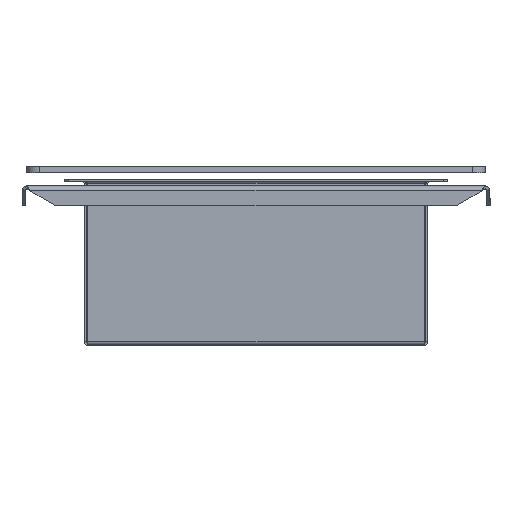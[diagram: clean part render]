
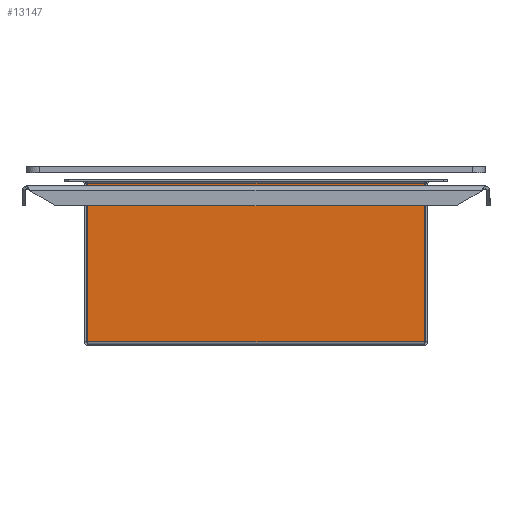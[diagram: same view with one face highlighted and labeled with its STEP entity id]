
A CAD part, left-side view. The second image highlights one B-rep face of the part: STEP entity #13147.
In plain terms, the highlighted planar face has unit normal (-1, 0, 0).
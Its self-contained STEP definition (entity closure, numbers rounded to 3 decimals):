
#379 = VECTOR ( 'NONE', #3079, 1000. ) ;
#552 = FACE_OUTER_BOUND ( 'NONE', #12557, .T. ) ;
#629 = CARTESIAN_POINT ( 'NONE',  ( -139.5, 80.7, 5. ) ) ;
#2609 = ORIENTED_EDGE ( 'NONE', *, *, #8262, .T. ) ;
#3079 = DIRECTION ( 'NONE',  ( 0., 1., 0. ) ) ;
#3097 = CARTESIAN_POINT ( 'NONE',  ( -139.5, -80.7, 5. ) ) ;
#3364 = CARTESIAN_POINT ( 'NONE',  ( -139.5, -80.7, -72.7 ) ) ;
#3468 = AXIS2_PLACEMENT_3D ( 'NONE', #14205, #6607, #15477 ) ;
#3882 = LINE ( 'NONE', #629, #7225 ) ;
#4024 = PLANE ( 'NONE',  #3468 ) ;
#4078 = VERTEX_POINT ( 'NONE', #3364 ) ;
#4169 = CARTESIAN_POINT ( 'NONE',  ( -139.5, 80.7, 3.2 ) ) ;
#5109 = VECTOR ( 'NONE', #11720, 1000. ) ;
#5160 = VERTEX_POINT ( 'NONE', #16376 ) ;
#6607 = DIRECTION ( 'NONE',  ( 1., 0., 0. ) ) ;
#6678 = LINE ( 'NONE', #4169, #5109 ) ;
#6716 = VERTEX_POINT ( 'NONE', #11132 ) ;
#7049 = EDGE_CURVE ( 'NONE', #4078, #5160, #7141, .T. ) ;
#7141 = LINE ( 'NONE', #11847, #379 ) ;
#7225 = VECTOR ( 'NONE', #8227, 1000. ) ;
#8227 = DIRECTION ( 'NONE',  ( 0., 0., -1. ) ) ;
#8262 = EDGE_CURVE ( 'NONE', #4078, #6716, #13210, .T. ) ;
#9265 = DIRECTION ( 'NONE',  ( 0., 0., 1. ) ) ;
#9429 = VECTOR ( 'NONE', #9265, 1000. ) ;
#9891 = CARTESIAN_POINT ( 'NONE',  ( -139.5, 80.7, 3.2 ) ) ;
#10545 = VERTEX_POINT ( 'NONE', #9891 ) ;
#11132 = CARTESIAN_POINT ( 'NONE',  ( -139.5, -80.7, 3.2 ) ) ;
#11542 = EDGE_CURVE ( 'NONE', #10545, #5160, #3882, .T. ) ;
#11695 = ORIENTED_EDGE ( 'NONE', *, *, #7049, .F. ) ;
#11705 = ORIENTED_EDGE ( 'NONE', *, *, #11542, .T. ) ;
#11720 = DIRECTION ( 'NONE',  ( 0., -1., 0. ) ) ;
#11847 = CARTESIAN_POINT ( 'NONE',  ( -139.5, 80.7, -72.7 ) ) ;
#12557 = EDGE_LOOP ( 'NONE', ( #12749, #11705, #11695, #2609 ) ) ;
#12749 = ORIENTED_EDGE ( 'NONE', *, *, #13730, .F. ) ;
#13147 = ADVANCED_FACE ( 'NONE', ( #552 ), #4024, .F. ) ;
#13210 = LINE ( 'NONE', #3097, #9429 ) ;
#13730 = EDGE_CURVE ( 'NONE', #10545, #6716, #6678, .T. ) ;
#14205 = CARTESIAN_POINT ( 'NONE',  ( -139.5, 80.7, 5. ) ) ;
#15477 = DIRECTION ( 'NONE',  ( 0., 0., -1. ) ) ;
#16376 = CARTESIAN_POINT ( 'NONE',  ( -139.5, 80.7, -72.7 ) ) ;
